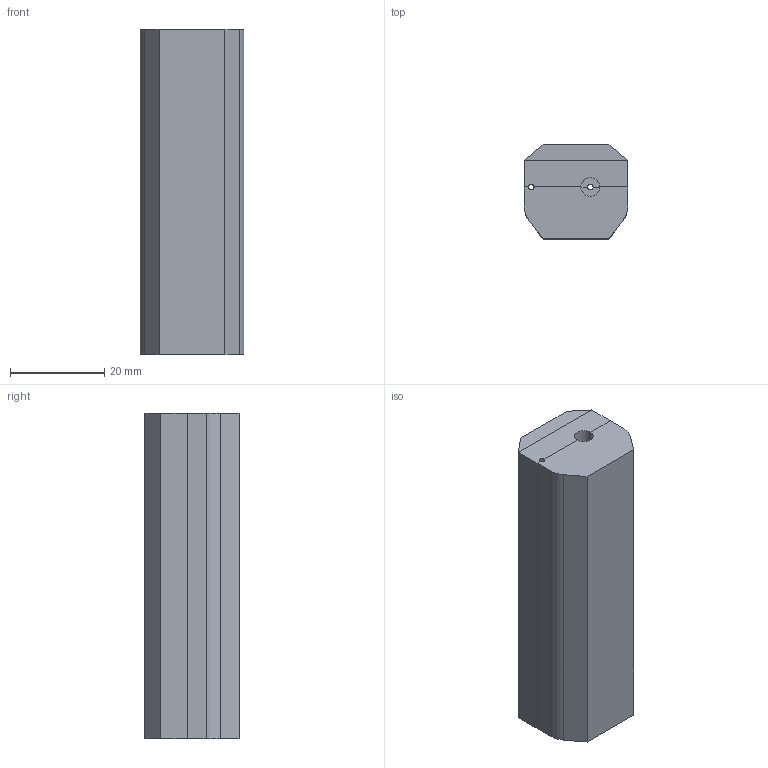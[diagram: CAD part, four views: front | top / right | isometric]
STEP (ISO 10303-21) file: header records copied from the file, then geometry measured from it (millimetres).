
FILE_DESCRIPTION(/* description */ (''),/* implementation_level */ '2;1');
FILE_NAME(/* name */ 'Cubic phantom (Single line, top) v13.step',/* time_stamp */ '2024-06-22T12:39:24+01:00',/* author */ (''),/* organization */ (''),/* preprocessor_version */ 'ST-DEVELOPER v20',/* originating_system */ 'Autodesk Translation Framework v13.14.0.145',/* authorisation */ '');
FILE_SCHEMA (('AUTOMOTIVE_DESIGN { 1 0 10303 214 3 1 1 }'));
Length unit declared in the file: millimetre
Products named in the file (1): Cubic phantom (Single line, top)
Bounding box: 22 x 19.96 x 69 mm (x, y, z)
Volume: 22546.1 mm3; surface area: 13759.1 mm2
Topology: 3 solids, 3 shells, 80 faces, 213 edges, 142 vertices
Faces by surface type: plane 57, cylinder 23
Full cylindrical faces by diameter (mm): 6.6 x3
Entity records: 2518 total; most frequent: CARTESIAN_POINT 436, ORIENTED_EDGE 426, DIRECTION 421, EDGE_CURVE 213, LINE 167, VECTOR 167, VERTEX_POINT 142, AXIS2_PLACEMENT_3D 127
